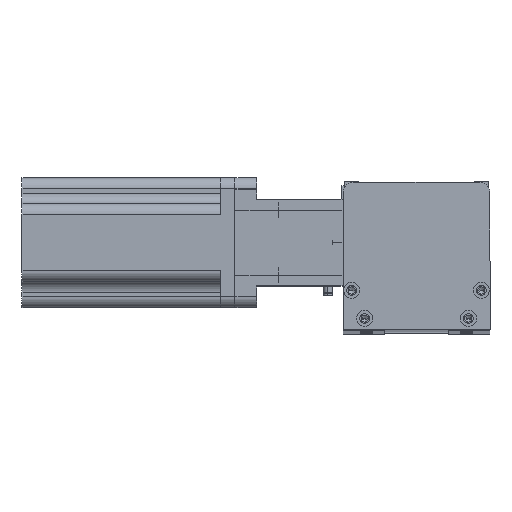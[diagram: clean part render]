
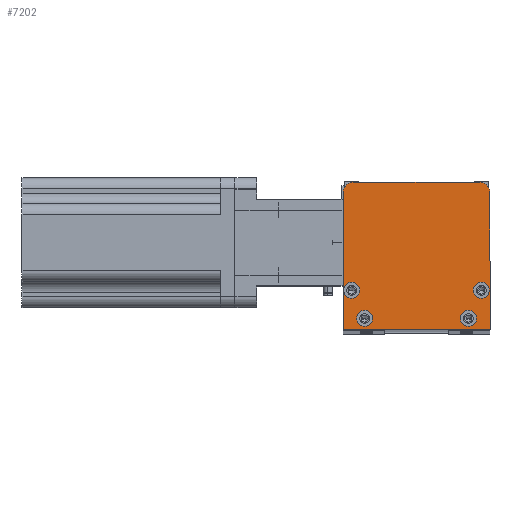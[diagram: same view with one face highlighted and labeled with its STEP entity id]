
A CAD part, top view. The second image highlights one B-rep face of the part: STEP entity #7202.
In plain terms, the highlighted planar face has unit normal (0, 0, 1) as drawn and (0, 0, -1) by its records, which use the part's own axes.
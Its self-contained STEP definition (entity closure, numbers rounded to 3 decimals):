
#71 = EDGE_CURVE ( 'NONE', #30019, #22491, #8213, .T. ) ;
#86 = CARTESIAN_POINT ( 'NONE',  ( 64., 18., 0. ) ) ;
#205 = DIRECTION ( 'NONE',  ( 0., 0., -1. ) ) ;
#476 = CARTESIAN_POINT ( 'NONE',  ( 6.25, 5., 0. ) ) ;
#526 = DIRECTION ( 'NONE',  ( 0., 0., 1. ) ) ;
#874 = DIRECTION ( 'NONE',  ( 1., 0., 0. ) ) ;
#1309 = EDGE_CURVE ( 'NONE', #25441, #28115, #22041, .T. ) ;
#1822 = AXIS2_PLACEMENT_3D ( 'NONE', #14435, #205, #16875 ) ;
#1890 = VECTOR ( 'NONE', #9054, 1000. ) ;
#2045 = EDGE_CURVE ( 'NONE', #22378, #24696, #22366, .T. ) ;
#2121 = DIRECTION ( 'NONE',  ( 1., 0., 0. ) ) ;
#2362 = VECTOR ( 'NONE', #874, 1000. ) ;
#2465 = DIRECTION ( 'NONE',  ( -1., 0., 0. ) ) ;
#2509 = CARTESIAN_POINT ( 'NONE',  ( 4., 18., 0. ) ) ;
#3288 = DIRECTION ( 'NONE',  ( -1., 0., 0. ) ) ;
#3499 = DIRECTION ( 'NONE',  ( 0., 0., -1. ) ) ;
#3571 = AXIS2_PLACEMENT_3D ( 'NONE', #3696, #3499, #3288 ) ;
#3696 = CARTESIAN_POINT ( 'NONE',  ( 58., 5., 0. ) ) ;
#3738 = VERTEX_POINT ( 'NONE', #13989 ) ;
#3768 = ORIENTED_EDGE ( 'NONE', *, *, #71, .F. ) ;
#3772 = ORIENTED_EDGE ( 'NONE', *, *, #2045, .F. ) ;
#4787 = DIRECTION ( 'NONE',  ( -1., 0., 0. ) ) ;
#4816 = FACE_BOUND ( 'NONE', #20222, .T. ) ;
#4858 = DIRECTION ( 'NONE',  ( -1., 0., 0. ) ) ;
#4884 = DIRECTION ( 'NONE',  ( 0., 0., -1. ) ) ;
#4941 = AXIS2_PLACEMENT_3D ( 'NONE', #21983, #21883, #21587 ) ;
#4942 = CIRCLE ( 'NONE', #11809, 3.75 ) ;
#4984 = CARTESIAN_POINT ( 'NONE',  ( 10., 5., 0. ) ) ;
#5254 = ORIENTED_EDGE ( 'NONE', *, *, #25301, .F. ) ;
#5276 = DIRECTION ( 'NONE',  ( -1., 0., 0. ) ) ;
#5279 = CARTESIAN_POINT ( 'NONE',  ( 0., 63., 0. ) ) ;
#5378 = VERTEX_POINT ( 'NONE', #10460 ) ;
#5558 = FACE_BOUND ( 'NONE', #19239, .T. ) ;
#5985 = ORIENTED_EDGE ( 'NONE', *, *, #9132, .F. ) ;
#6206 = ORIENTED_EDGE ( 'NONE', *, *, #6690, .F. ) ;
#6308 = EDGE_CURVE ( 'NONE', #19176, #18741, #15035, .T. ) ;
#6332 = EDGE_CURVE ( 'NONE', #22491, #30019, #20699, .T. ) ;
#6676 = AXIS2_PLACEMENT_3D ( 'NONE', #2509, #19236, #4858 ) ;
#6690 = EDGE_CURVE ( 'NONE', #24696, #22378, #16842, .T. ) ;
#7202 = ADVANCED_FACE ( 'NONE', ( #4816, #5558, #11156, #29549, #23183 ), #29128, .F. ) ;
#7732 = ORIENTED_EDGE ( 'NONE', *, *, #6308, .F. ) ;
#8099 = CARTESIAN_POINT ( 'NONE',  ( 10., 5., 0. ) ) ;
#8132 = ORIENTED_EDGE ( 'NONE', *, *, #6332, .F. ) ;
#8213 = CIRCLE ( 'NONE', #20987, 3.75 ) ;
#8379 = ORIENTED_EDGE ( 'NONE', *, *, #16502, .T. ) ;
#8864 = CARTESIAN_POINT ( 'NONE',  ( 13.75, 5., 0. ) ) ;
#8977 = CARTESIAN_POINT ( 'NONE',  ( 5., 68., 0. ) ) ;
#9054 = DIRECTION ( 'NONE',  ( 0., -1., 0. ) ) ;
#9132 = EDGE_CURVE ( 'NONE', #18741, #5378, #28660, .T. ) ;
#9466 = CARTESIAN_POINT ( 'NONE',  ( 61.75, 5., 0. ) ) ;
#9567 = CARTESIAN_POINT ( 'NONE',  ( 7.75, 18., 0. ) ) ;
#10460 = CARTESIAN_POINT ( 'NONE',  ( 68., 63., 0. ) ) ;
#10488 = ORIENTED_EDGE ( 'NONE', *, *, #12025, .F. ) ;
#10510 = ORIENTED_EDGE ( 'NONE', *, *, #26157, .F. ) ;
#10517 = DIRECTION ( 'NONE',  ( -1., 0., 0. ) ) ;
#10638 = DIRECTION ( 'NONE',  ( 0., 0., -1. ) ) ;
#11156 = FACE_BOUND ( 'NONE', #21462, .T. ) ;
#11203 = CARTESIAN_POINT ( 'NONE',  ( 0.25, 18., 0. ) ) ;
#11809 = AXIS2_PLACEMENT_3D ( 'NONE', #12894, #29707, #15338 ) ;
#11811 = ORIENTED_EDGE ( 'NONE', *, *, #30168, .F. ) ;
#12025 = EDGE_CURVE ( 'NONE', #28115, #25441, #4942, .T. ) ;
#12690 = CARTESIAN_POINT ( 'NONE',  ( 68., 0., 0. ) ) ;
#12873 = VECTOR ( 'NONE', #5276, 1000. ) ;
#12894 = CARTESIAN_POINT ( 'NONE',  ( 58., 5., 0. ) ) ;
#13368 = VERTEX_POINT ( 'NONE', #8977 ) ;
#13989 = CARTESIAN_POINT ( 'NONE',  ( 60.25, 18., 0. ) ) ;
#14418 = CIRCLE ( 'NONE', #18033, 5. ) ;
#14435 = CARTESIAN_POINT ( 'NONE',  ( 64., 18., 0. ) ) ;
#15035 = LINE ( 'NONE', #12690, #2362 ) ;
#15119 = AXIS2_PLACEMENT_3D ( 'NONE', #26684, #526, #17206 ) ;
#15338 = DIRECTION ( 'NONE',  ( -1., 0., 0. ) ) ;
#16036 = AXIS2_PLACEMENT_3D ( 'NONE', #86, #16750, #2465 ) ;
#16399 = DIRECTION ( 'NONE',  ( 0., 0., -1. ) ) ;
#16502 = EDGE_CURVE ( 'NONE', #29105, #13368, #14418, .T. ) ;
#16750 = DIRECTION ( 'NONE',  ( 0., 0., -1. ) ) ;
#16842 = CIRCLE ( 'NONE', #6676, 3.75 ) ;
#16875 = DIRECTION ( 'NONE',  ( -1., 0., 0. ) ) ;
#17206 = DIRECTION ( 'NONE',  ( 1., 0., 0. ) ) ;
#17557 = AXIS2_PLACEMENT_3D ( 'NONE', #8099, #24868, #10517 ) ;
#17667 = CIRCLE ( 'NONE', #17808, 5. ) ;
#17808 = AXIS2_PLACEMENT_3D ( 'NONE', #30766, #16399, #2121 ) ;
#18033 = AXIS2_PLACEMENT_3D ( 'NONE', #25009, #10638, #27415 ) ;
#18741 = VERTEX_POINT ( 'NONE', #23723 ) ;
#19176 = VERTEX_POINT ( 'NONE', #30439 ) ;
#19236 = DIRECTION ( 'NONE',  ( 0., 0., -1. ) ) ;
#19239 = EDGE_LOOP ( 'NONE', ( #6206, #3772 ) ) ;
#19672 = CARTESIAN_POINT ( 'NONE',  ( 68., 68., 0. ) ) ;
#20222 = EDGE_LOOP ( 'NONE', ( #11811, #10510 ) ) ;
#20232 = LINE ( 'NONE', #23431, #1890 ) ;
#20550 = EDGE_LOOP ( 'NONE', ( #5254, #8379, #28472, #26505, #5985, #7732 ) ) ;
#20699 = CIRCLE ( 'NONE', #17557, 3.75 ) ;
#20709 = EDGE_CURVE ( 'NONE', #29577, #13368, #25636, .T. ) ;
#20987 = AXIS2_PLACEMENT_3D ( 'NONE', #4984, #4884, #4787 ) ;
#21173 = EDGE_LOOP ( 'NONE', ( #10488, #26550 ) ) ;
#21364 = CARTESIAN_POINT ( 'NONE',  ( 68., 0., 0. ) ) ;
#21462 = EDGE_LOOP ( 'NONE', ( #8132, #3768 ) ) ;
#21587 = DIRECTION ( 'NONE',  ( -1., 0., 0. ) ) ;
#21628 = CARTESIAN_POINT ( 'NONE',  ( 63., 68., 0. ) ) ;
#21883 = DIRECTION ( 'NONE',  ( 0., 0., -1. ) ) ;
#21983 = CARTESIAN_POINT ( 'NONE',  ( 4., 18., 0. ) ) ;
#22041 = CIRCLE ( 'NONE', #3571, 3.75 ) ;
#22309 = VECTOR ( 'NONE', #26123, 1000. ) ;
#22366 = CIRCLE ( 'NONE', #4941, 3.75 ) ;
#22378 = VERTEX_POINT ( 'NONE', #9567 ) ;
#22491 = VERTEX_POINT ( 'NONE', #476 ) ;
#22618 = CARTESIAN_POINT ( 'NONE',  ( 54.25, 5., 0. ) ) ;
#22703 = VERTEX_POINT ( 'NONE', #25090 ) ;
#23183 = FACE_OUTER_BOUND ( 'NONE', #20550, .T. ) ;
#23431 = CARTESIAN_POINT ( 'NONE',  ( 0., 0., 0. ) ) ;
#23723 = CARTESIAN_POINT ( 'NONE',  ( 68., 0., 0. ) ) ;
#24149 = EDGE_CURVE ( 'NONE', #29577, #5378, #17667, .T. ) ;
#24696 = VERTEX_POINT ( 'NONE', #11203 ) ;
#24868 = DIRECTION ( 'NONE',  ( 0., 0., -1. ) ) ;
#25009 = CARTESIAN_POINT ( 'NONE',  ( 5., 63., 0. ) ) ;
#25090 = CARTESIAN_POINT ( 'NONE',  ( 67.75, 18., 0. ) ) ;
#25301 = EDGE_CURVE ( 'NONE', #29105, #19176, #20232, .T. ) ;
#25441 = VERTEX_POINT ( 'NONE', #9466 ) ;
#25636 = LINE ( 'NONE', #19672, #12873 ) ;
#26123 = DIRECTION ( 'NONE',  ( 0., 1., 0. ) ) ;
#26157 = EDGE_CURVE ( 'NONE', #22703, #3738, #29502, .T. ) ;
#26505 = ORIENTED_EDGE ( 'NONE', *, *, #24149, .T. ) ;
#26550 = ORIENTED_EDGE ( 'NONE', *, *, #1309, .F. ) ;
#26684 = CARTESIAN_POINT ( 'NONE',  ( 0., 0., 0. ) ) ;
#27415 = DIRECTION ( 'NONE',  ( 1., 0., 0. ) ) ;
#27815 = CIRCLE ( 'NONE', #16036, 3.75 ) ;
#28115 = VERTEX_POINT ( 'NONE', #22618 ) ;
#28472 = ORIENTED_EDGE ( 'NONE', *, *, #20709, .F. ) ;
#28660 = LINE ( 'NONE', #21364, #22309 ) ;
#29105 = VERTEX_POINT ( 'NONE', #5279 ) ;
#29128 = PLANE ( 'NONE',  #15119 ) ;
#29502 = CIRCLE ( 'NONE', #1822, 3.75 ) ;
#29549 = FACE_BOUND ( 'NONE', #21173, .T. ) ;
#29577 = VERTEX_POINT ( 'NONE', #21628 ) ;
#29707 = DIRECTION ( 'NONE',  ( 0., 0., -1. ) ) ;
#30019 = VERTEX_POINT ( 'NONE', #8864 ) ;
#30168 = EDGE_CURVE ( 'NONE', #3738, #22703, #27815, .T. ) ;
#30439 = CARTESIAN_POINT ( 'NONE',  ( 0., 0., 0. ) ) ;
#30766 = CARTESIAN_POINT ( 'NONE',  ( 63., 63., 0. ) ) ;
